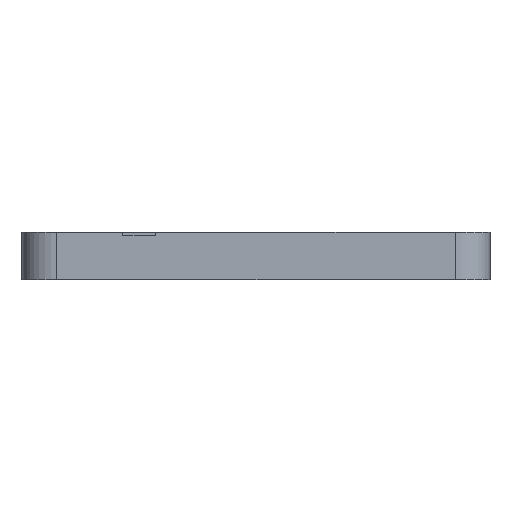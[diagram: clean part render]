
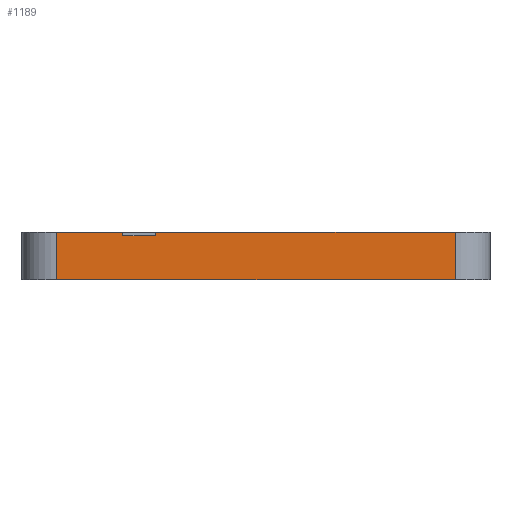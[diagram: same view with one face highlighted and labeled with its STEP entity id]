
A CAD part, left-side view. The second image highlights one B-rep face of the part: STEP entity #1189.
In plain terms, the highlighted planar face has unit normal (-1, 0, 0).
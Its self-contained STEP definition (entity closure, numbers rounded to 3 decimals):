
#44 = PLANE('',#45);
#45 = AXIS2_PLACEMENT_3D('',#46,#47,#48);
#46 = CARTESIAN_POINT('',(125.75,-50.,-10.1));
#47 = DIRECTION('',(0.,0.,1.));
#48 = DIRECTION('',(1.,0.,-0.));
#72 = CYLINDRICAL_SURFACE('',#73,7.4);
#73 = AXIS2_PLACEMENT_3D('',#74,#75,#76);
#74 = CARTESIAN_POINT('',(7.5,-92.5,-10.1));
#75 = DIRECTION('',(0.,0.,1.));
#76 = DIRECTION('',(0.,-1.,0.));
#100 = PLANE('',#101);
#101 = AXIS2_PLACEMENT_3D('',#102,#103,#104);
#102 = CARTESIAN_POINT('',(125.75,-50.,0.));
#103 = DIRECTION('',(0.,0.,1.));
#104 = DIRECTION('',(1.,0.,-0.));
#252 = VERTEX_POINT('',#253);
#253 = CARTESIAN_POINT('',(0.1,-7.5,-10.1));
#268 = CYLINDRICAL_SURFACE('',#269,7.4);
#269 = AXIS2_PLACEMENT_3D('',#270,#271,#272);
#270 = CARTESIAN_POINT('',(7.5,-7.5,-10.1));
#271 = DIRECTION('',(0.,0.,1.));
#272 = DIRECTION('',(-0.,1.,0.));
#280 = EDGE_CURVE('',#252,#281,#283,.T.);
#281 = VERTEX_POINT('',#282);
#282 = CARTESIAN_POINT('',(0.1,-92.5,-10.1));
#283 = SURFACE_CURVE('',#284,(#288,#295),.PCURVE_S1.);
#284 = LINE('',#285,#286);
#285 = CARTESIAN_POINT('',(0.1,-0.1,-10.1)
  );
#286 = VECTOR('',#287,1.);
#287 = DIRECTION('',(0.,-1.,0.));
#288 = PCURVE('',#44,#289);
#289 = DEFINITIONAL_REPRESENTATION('',(#290),#294);
#290 = LINE('',#291,#292);
#291 = CARTESIAN_POINT('',(-125.65,49.9));
#292 = VECTOR('',#293,1.);
#293 = DIRECTION('',(0.,-1.));
#294 = ( GEOMETRIC_REPRESENTATION_CONTEXT(2) 
PARAMETRIC_REPRESENTATION_CONTEXT() REPRESENTATION_CONTEXT('2D SPACE',''
  ) );
#295 = PCURVE('',#296,#301);
#296 = PLANE('',#297);
#297 = AXIS2_PLACEMENT_3D('',#298,#299,#300);
#298 = CARTESIAN_POINT('',(0.1,-0.1,-10.1)
  );
#299 = DIRECTION('',(1.,0.,-0.));
#300 = DIRECTION('',(0.,-1.,0.));
#301 = DEFINITIONAL_REPRESENTATION('',(#302),#306);
#302 = LINE('',#303,#304);
#303 = CARTESIAN_POINT('',(0.,0.));
#304 = VECTOR('',#305,1.);
#305 = DIRECTION('',(1.,0.));
#306 = ( GEOMETRIC_REPRESENTATION_CONTEXT(2) 
PARAMETRIC_REPRESENTATION_CONTEXT() REPRESENTATION_CONTEXT('2D SPACE',''
  ) );
#653 = EDGE_CURVE('',#281,#654,#656,.T.);
#654 = VERTEX_POINT('',#655);
#655 = CARTESIAN_POINT('',(0.1,-92.5,0.));
#656 = SURFACE_CURVE('',#657,(#661,#668),.PCURVE_S1.);
#657 = LINE('',#658,#659);
#658 = CARTESIAN_POINT('',(0.1,-92.5,-10.1));
#659 = VECTOR('',#660,1.);
#660 = DIRECTION('',(0.,0.,1.));
#661 = PCURVE('',#72,#662);
#662 = DEFINITIONAL_REPRESENTATION('',(#663),#667);
#663 = LINE('',#664,#665);
#664 = CARTESIAN_POINT('',(-1.571,0.));
#665 = VECTOR('',#666,1.);
#666 = DIRECTION('',(-0.,1.));
#667 = ( GEOMETRIC_REPRESENTATION_CONTEXT(2) 
PARAMETRIC_REPRESENTATION_CONTEXT() REPRESENTATION_CONTEXT('2D SPACE',''
  ) );
#668 = PCURVE('',#296,#669);
#669 = DEFINITIONAL_REPRESENTATION('',(#670),#674);
#670 = LINE('',#671,#672);
#671 = CARTESIAN_POINT('',(92.4,0.));
#672 = VECTOR('',#673,1.);
#673 = DIRECTION('',(0.,-1.));
#674 = ( GEOMETRIC_REPRESENTATION_CONTEXT(2) 
PARAMETRIC_REPRESENTATION_CONTEXT() REPRESENTATION_CONTEXT('2D SPACE',''
  ) );
#830 = VERTEX_POINT('',#831);
#831 = CARTESIAN_POINT('',(0.1,-7.5,0.));
#853 = EDGE_CURVE('',#830,#854,#856,.T.);
#854 = VERTEX_POINT('',#855);
#855 = CARTESIAN_POINT('',(0.1,-21.58,0.));
#856 = SURFACE_CURVE('',#857,(#861,#868),.PCURVE_S1.);
#857 = LINE('',#858,#859);
#858 = CARTESIAN_POINT('',(0.1,-0.1,0.));
#859 = VECTOR('',#860,1.);
#860 = DIRECTION('',(0.,-1.,0.));
#861 = PCURVE('',#100,#862);
#862 = DEFINITIONAL_REPRESENTATION('',(#863),#867);
#863 = LINE('',#864,#865);
#864 = CARTESIAN_POINT('',(-125.65,49.9));
#865 = VECTOR('',#866,1.);
#866 = DIRECTION('',(0.,-1.));
#867 = ( GEOMETRIC_REPRESENTATION_CONTEXT(2) 
PARAMETRIC_REPRESENTATION_CONTEXT() REPRESENTATION_CONTEXT('2D SPACE',''
  ) );
#868 = PCURVE('',#296,#869);
#869 = DEFINITIONAL_REPRESENTATION('',(#870),#874);
#870 = LINE('',#871,#872);
#871 = CARTESIAN_POINT('',(0.,-10.1));
#872 = VECTOR('',#873,1.);
#873 = DIRECTION('',(1.,0.));
#874 = ( GEOMETRIC_REPRESENTATION_CONTEXT(2) 
PARAMETRIC_REPRESENTATION_CONTEXT() REPRESENTATION_CONTEXT('2D SPACE',''
  ) );
#891 = PLANE('',#892);
#892 = AXIS2_PLACEMENT_3D('',#893,#894,#895);
#893 = CARTESIAN_POINT('',(2.11,-21.58,-0.7));
#894 = DIRECTION('',(0.,-1.,0.));
#895 = DIRECTION('',(-1.,0.,0.));
#1144 = VERTEX_POINT('',#1145);
#1145 = CARTESIAN_POINT('',(0.1,-28.58,0.));
#1158 = PLANE('',#1159);
#1159 = AXIS2_PLACEMENT_3D('',#1160,#1161,#1162);
#1160 = CARTESIAN_POINT('',(-0.9,-28.58,-0.7));
#1161 = DIRECTION('',(0.,1.,0.));
#1162 = DIRECTION('',(1.,0.,0.));
#1169 = EDGE_CURVE('',#1144,#654,#1170,.T.);
#1170 = SURFACE_CURVE('',#1171,(#1175,#1182),.PCURVE_S1.);
#1171 = LINE('',#1172,#1173);
#1172 = CARTESIAN_POINT('',(0.1,-0.1,0.));
#1173 = VECTOR('',#1174,1.);
#1174 = DIRECTION('',(0.,-1.,0.));
#1175 = PCURVE('',#100,#1176);
#1176 = DEFINITIONAL_REPRESENTATION('',(#1177),#1181);
#1177 = LINE('',#1178,#1179);
#1178 = CARTESIAN_POINT('',(-125.65,49.9));
#1179 = VECTOR('',#1180,1.);
#1180 = DIRECTION('',(0.,-1.));
#1181 = ( GEOMETRIC_REPRESENTATION_CONTEXT(2) 
PARAMETRIC_REPRESENTATION_CONTEXT() REPRESENTATION_CONTEXT('2D SPACE',''
  ) );
#1182 = PCURVE('',#296,#1183);
#1183 = DEFINITIONAL_REPRESENTATION('',(#1184),#1188);
#1184 = LINE('',#1185,#1186);
#1185 = CARTESIAN_POINT('',(0.,-10.1));
#1186 = VECTOR('',#1187,1.);
#1187 = DIRECTION('',(1.,0.));
#1188 = ( GEOMETRIC_REPRESENTATION_CONTEXT(2) 
PARAMETRIC_REPRESENTATION_CONTEXT() REPRESENTATION_CONTEXT('2D SPACE',''
  ) );
#1189 = ADVANCED_FACE('',(#1190),#296,.F.);
#1190 = FACE_BOUND('',#1191,.F.);
#1191 = EDGE_LOOP('',(#1192,#1193,#1214,#1215,#1236,#1262,#1281,#1282));
#1192 = ORIENTED_EDGE('',*,*,#280,.F.);
#1193 = ORIENTED_EDGE('',*,*,#1194,.T.);
#1194 = EDGE_CURVE('',#252,#830,#1195,.T.);
#1195 = SURFACE_CURVE('',#1196,(#1200,#1207),.PCURVE_S1.);
#1196 = LINE('',#1197,#1198);
#1197 = CARTESIAN_POINT('',(0.1,-7.5,-10.1));
#1198 = VECTOR('',#1199,1.);
#1199 = DIRECTION('',(0.,0.,1.));
#1200 = PCURVE('',#296,#1201);
#1201 = DEFINITIONAL_REPRESENTATION('',(#1202),#1206);
#1202 = LINE('',#1203,#1204);
#1203 = CARTESIAN_POINT('',(7.4,0.));
#1204 = VECTOR('',#1205,1.);
#1205 = DIRECTION('',(0.,-1.));
#1206 = ( GEOMETRIC_REPRESENTATION_CONTEXT(2) 
PARAMETRIC_REPRESENTATION_CONTEXT() REPRESENTATION_CONTEXT('2D SPACE',''
  ) );
#1207 = PCURVE('',#268,#1208);
#1208 = DEFINITIONAL_REPRESENTATION('',(#1209),#1213);
#1209 = LINE('',#1210,#1211);
#1210 = CARTESIAN_POINT('',(1.571,0.));
#1211 = VECTOR('',#1212,1.);
#1212 = DIRECTION('',(0.,1.));
#1213 = ( GEOMETRIC_REPRESENTATION_CONTEXT(2) 
PARAMETRIC_REPRESENTATION_CONTEXT() REPRESENTATION_CONTEXT('2D SPACE',''
  ) );
#1214 = ORIENTED_EDGE('',*,*,#853,.T.);
#1215 = ORIENTED_EDGE('',*,*,#1216,.T.);
#1216 = EDGE_CURVE('',#854,#1217,#1219,.T.);
#1217 = VERTEX_POINT('',#1218);
#1218 = CARTESIAN_POINT('',(0.1,-21.58,-0.7));
#1219 = SURFACE_CURVE('',#1220,(#1224,#1230),.PCURVE_S1.);
#1220 = LINE('',#1221,#1222);
#1221 = CARTESIAN_POINT('',(0.1,-21.58,-5.4));
#1222 = VECTOR('',#1223,1.);
#1223 = DIRECTION('',(0.,-0.,-1.));
#1224 = PCURVE('',#296,#1225);
#1225 = DEFINITIONAL_REPRESENTATION('',(#1226),#1229);
#1226 = B_SPLINE_CURVE_WITH_KNOTS('',1,(#1227,#1228),.UNSPECIFIED.,.F.,
  .F.,(2,2),(-5.4,-4.7),.PIECEWISE_BEZIER_KNOTS.);
#1227 = CARTESIAN_POINT('',(21.48,-10.1));
#1228 = CARTESIAN_POINT('',(21.48,-9.4));
#1229 = ( GEOMETRIC_REPRESENTATION_CONTEXT(2) 
PARAMETRIC_REPRESENTATION_CONTEXT() REPRESENTATION_CONTEXT('2D SPACE',''
  ) );
#1230 = PCURVE('',#891,#1231);
#1231 = DEFINITIONAL_REPRESENTATION('',(#1232),#1235);
#1232 = B_SPLINE_CURVE_WITH_KNOTS('',1,(#1233,#1234),.UNSPECIFIED.,.F.,
  .F.,(2,2),(-5.4,-4.7),.PIECEWISE_BEZIER_KNOTS.);
#1233 = CARTESIAN_POINT('',(2.01,-0.7));
#1234 = CARTESIAN_POINT('',(2.01,0.));
#1235 = ( GEOMETRIC_REPRESENTATION_CONTEXT(2) 
PARAMETRIC_REPRESENTATION_CONTEXT() REPRESENTATION_CONTEXT('2D SPACE',''
  ) );
#1236 = ORIENTED_EDGE('',*,*,#1237,.T.);
#1237 = EDGE_CURVE('',#1217,#1238,#1240,.T.);
#1238 = VERTEX_POINT('',#1239);
#1239 = CARTESIAN_POINT('',(0.1,-28.58,-0.7));
#1240 = SURFACE_CURVE('',#1241,(#1245,#1251),.PCURVE_S1.);
#1241 = LINE('',#1242,#1243);
#1242 = CARTESIAN_POINT('',(0.1,-12.59,-0.7));
#1243 = VECTOR('',#1244,1.);
#1244 = DIRECTION('',(0.,-1.,0.));
#1245 = PCURVE('',#296,#1246);
#1246 = DEFINITIONAL_REPRESENTATION('',(#1247),#1250);
#1247 = B_SPLINE_CURVE_WITH_KNOTS('',1,(#1248,#1249),.UNSPECIFIED.,.F.,
  .F.,(2,2),(8.99,15.99),.PIECEWISE_BEZIER_KNOTS.);
#1248 = CARTESIAN_POINT('',(21.48,-9.4));
#1249 = CARTESIAN_POINT('',(28.48,-9.4));
#1250 = ( GEOMETRIC_REPRESENTATION_CONTEXT(2) 
PARAMETRIC_REPRESENTATION_CONTEXT() REPRESENTATION_CONTEXT('2D SPACE',''
  ) );
#1251 = PCURVE('',#1252,#1257);
#1252 = PLANE('',#1253);
#1253 = AXIS2_PLACEMENT_3D('',#1254,#1255,#1256);
#1254 = CARTESIAN_POINT('',(0.605,-25.08,-0.7));
#1255 = DIRECTION('',(0.,0.,1.));
#1256 = DIRECTION('',(1.,0.,-0.));
#1257 = DEFINITIONAL_REPRESENTATION('',(#1258),#1261);
#1258 = B_SPLINE_CURVE_WITH_KNOTS('',1,(#1259,#1260),.UNSPECIFIED.,.F.,
  .F.,(2,2),(8.99,15.99),.PIECEWISE_BEZIER_KNOTS.);
#1259 = CARTESIAN_POINT('',(-0.505,3.5));
#1260 = CARTESIAN_POINT('',(-0.505,-3.5));
#1261 = ( GEOMETRIC_REPRESENTATION_CONTEXT(2) 
PARAMETRIC_REPRESENTATION_CONTEXT() REPRESENTATION_CONTEXT('2D SPACE',''
  ) );
#1262 = ORIENTED_EDGE('',*,*,#1263,.T.);
#1263 = EDGE_CURVE('',#1238,#1144,#1264,.T.);
#1264 = SURFACE_CURVE('',#1265,(#1269,#1275),.PCURVE_S1.);
#1265 = LINE('',#1266,#1267);
#1266 = CARTESIAN_POINT('',(0.1,-28.58,-5.4));
#1267 = VECTOR('',#1268,1.);
#1268 = DIRECTION('',(0.,-0.,1.));
#1269 = PCURVE('',#296,#1270);
#1270 = DEFINITIONAL_REPRESENTATION('',(#1271),#1274);
#1271 = B_SPLINE_CURVE_WITH_KNOTS('',1,(#1272,#1273),.UNSPECIFIED.,.F.,
  .F.,(2,2),(4.7,5.4),.PIECEWISE_BEZIER_KNOTS.);
#1272 = CARTESIAN_POINT('',(28.48,-9.4));
#1273 = CARTESIAN_POINT('',(28.48,-10.1));
#1274 = ( GEOMETRIC_REPRESENTATION_CONTEXT(2) 
PARAMETRIC_REPRESENTATION_CONTEXT() REPRESENTATION_CONTEXT('2D SPACE',''
  ) );
#1275 = PCURVE('',#1158,#1276);
#1276 = DEFINITIONAL_REPRESENTATION('',(#1277),#1280);
#1277 = B_SPLINE_CURVE_WITH_KNOTS('',1,(#1278,#1279),.UNSPECIFIED.,.F.,
  .F.,(2,2),(4.7,5.4),.PIECEWISE_BEZIER_KNOTS.);
#1278 = CARTESIAN_POINT('',(1.,0.));
#1279 = CARTESIAN_POINT('',(1.,-0.7));
#1280 = ( GEOMETRIC_REPRESENTATION_CONTEXT(2) 
PARAMETRIC_REPRESENTATION_CONTEXT() REPRESENTATION_CONTEXT('2D SPACE',''
  ) );
#1281 = ORIENTED_EDGE('',*,*,#1169,.T.);
#1282 = ORIENTED_EDGE('',*,*,#653,.F.);
